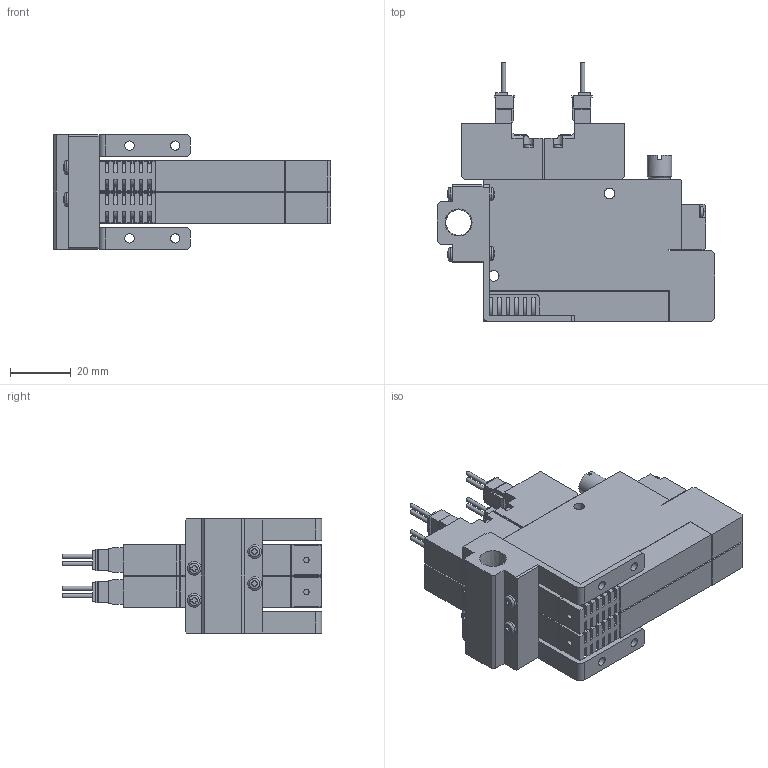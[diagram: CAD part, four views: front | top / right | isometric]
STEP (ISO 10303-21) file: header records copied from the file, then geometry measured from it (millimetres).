
FILE_DESCRIPTION(('STEP AP203'),'1');
FILE_NAME('5SS202_3D.stp','2024-09-04T09:28:42',(' '),(' '),'Spatial InterOp 3D',' ',' ');
FILE_SCHEMA(('CONFIG_CONTROL_DESIGN'));
Length unit declared in the file: millimetre
Products named in the file (5): BSC1M※※ZZ※5SS202; Solenoid valve S; Pressure Sensor ZZ; Unit-S; BaseMS20R
Assembly tree (7 placements, depth 2):
  BSC1M※※ZZ※5SS202
    Solenoid valve S  x2
    Pressure Sensor ZZ  x2
    Unit-S  x2
    BaseMS20R
Bounding box: 91 x 85.05 x 37.5 mm (x, y, z)
Volume: 93185.6 mm3; surface area: 39787.8 mm2
Topology: 7 solids, 7 shells, 965 faces, 2641 edges, 1750 vertices
Faces by surface type: plane 702, cylinder 227, sphere 12, cone 12, torus 12
Full cylindrical faces by diameter (mm): 1.4 x8, 1.8 x2, 2.5 x4, 3 x12, 3.5 x12, 4 x2, 4.134 x4, 4.5 x8, 5.5 x2, 7 x2, 7.7 x2, 8 x2, 8.422 x1
Entity records: 18008 total; most frequent: CARTESIAN_POINT 3793, ORIENTED_EDGE 2866, DIRECTION 2810, EDGE_CURVE 1433, LINE 1062, VECTOR 1062, VERTEX_POINT 985, AXIS2_PLACEMENT_3D 874
